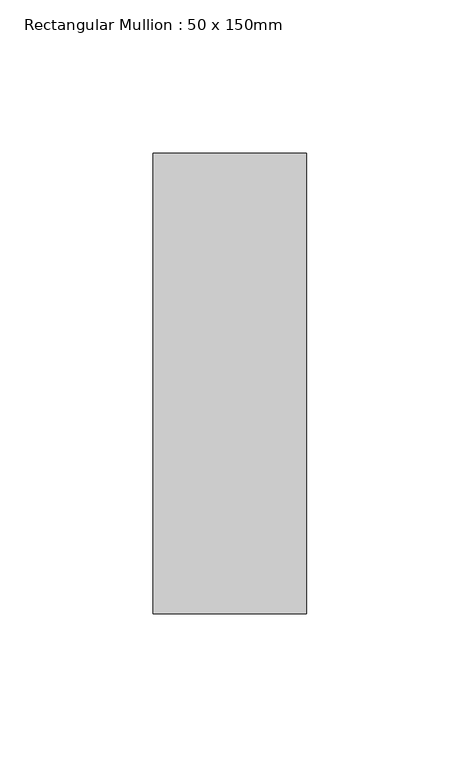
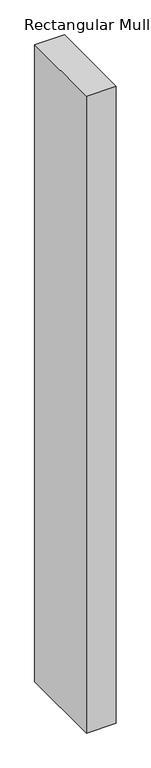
"""IFC4 building model written with IfcOpenShell, lengths in millimetres: member geometry, Rectangular Mullion : 50 x 150mm."""

from ifc_helpers import new_model, si_unit, frame, origin, place, context, project, spatial, polyline, outline, extrude, source, transform, mapped, element, save


def rectangular_mullion_50_x_150mm_1201c976(model_context):
    return source(origin(), model_context, "Body", "SweptSolid", [
        extrude(outline(polyline([(0.0, 75.0), (0.0, -75.0), (-50.0, -75.0), (-50.0, 75.0), (0.0, 75.0)])), frame((0.0, 0.0, -1128.3757116), z_axis=(0.0, 0.0, 1.0), x_axis=(1.0, 0.0, 0.0)), (0.0, 0.0, 1.0), 1128.3757116),
    ])


if __name__ == "__main__":
    model = new_model("IFC4")
    model_context = context("Model", 3, world=origin())
    ifc_project = project(units=[si_unit("LENGTHUNIT", "METRE", prefix="MILLI")], contexts=[model_context])
    site = spatial("IfcSite", under=ifc_project)
    building = spatial("IfcBuilding", under=site)
    placement = place(None, origin())
    rectangular_mullion_50_x_150mm_shape = rectangular_mullion_50_x_150mm_1201c976(model_context)
    element("IfcMember", 1, ObjectType="Rectangular Mullion : 50 x 150mm", at=placement, inside=building, context=model_context, shape_type="MappedRepresentation", body=[
        mapped(rectangular_mullion_50_x_150mm_shape, transform((0.0, 0.0, 0.0), x_axis=(1.0, 0.0, 0.0), y_axis=(0.0, 1.0, 0.0), z_axis=(0.0, 0.0, 1.0))),
    ])
    save(model, "model.ifc")
